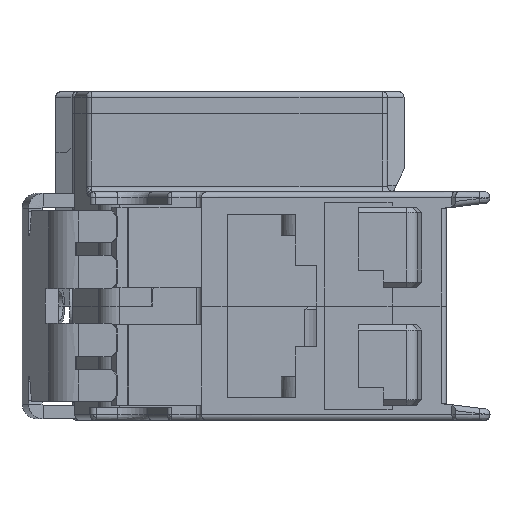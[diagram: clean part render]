
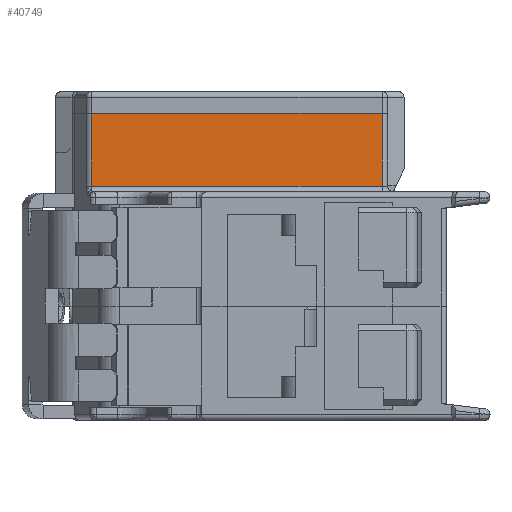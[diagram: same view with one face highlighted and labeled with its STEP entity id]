
A CAD part, front view. The second image highlights one B-rep face of the part: STEP entity #40749.
In plain terms, the highlighted planar face has unit normal (0, -1, 0).
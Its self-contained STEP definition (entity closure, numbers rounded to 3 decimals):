
#861 = EDGE_CURVE ( 'NONE', #5684, #5587, #8531, .T. ) ;
#894 = EDGE_CURVE ( 'NONE', #5582, #5587, #9184, .T. ) ;
#896 = EDGE_CURVE ( 'NONE', #5688, #5582, #9186, .T. ) ;
#3464 = EDGE_LOOP ( 'NONE', ( #6732, #6733, #6734, #6735 ) ) ;
#3976 = CARTESIAN_POINT ( 'NONE',  ( -11.1, 8.5, -17.7 ) ) ;
#3991 = CARTESIAN_POINT ( 'NONE',  ( -11.1, 8.5, -11. ) ) ;
#5582 = VERTEX_POINT ( 'NONE', #29901 ) ;
#5587 = VERTEX_POINT ( 'NONE', #29891 ) ;
#5684 = VERTEX_POINT ( 'NONE', #3976 ) ;
#5688 = VERTEX_POINT ( 'NONE', #3991 ) ;
#6732 = ORIENTED_EDGE ( 'NONE', *, *, #861, .T. ) ;
#6733 = ORIENTED_EDGE ( 'NONE', *, *, #894, .F. ) ;
#6734 = ORIENTED_EDGE ( 'NONE', *, *, #896, .F. ) ;
#6735 = ORIENTED_EDGE ( 'NONE', *, *, #48603, .T. ) ;
#8531 = LINE ( 'NONE', #28917, #8534 ) ;
#8534 = VECTOR ( 'NONE', #29670, 1000. ) ;
#9184 = LINE ( 'NONE', #29561, #9194 ) ;
#9186 = LINE ( 'NONE', #29562, #9195 ) ;
#9194 = VECTOR ( 'NONE', #29563, 1000. ) ;
#9195 = VECTOR ( 'NONE', #29547, 1000. ) ;
#16384 = LINE ( 'NONE', #18402, #16400 ) ;
#16400 = VECTOR ( 'NONE', #18397, 1000. ) ;
#17411 = FACE_OUTER_BOUND ( 'NONE', #3464, .T. ) ;
#18397 = DIRECTION ( 'NONE',  ( 0., 0., -1. ) ) ;
#18402 = CARTESIAN_POINT ( 'NONE',  ( -11.1, 8.5, -10.5 ) ) ;
#22105 = AXIS2_PLACEMENT_3D ( 'NONE', #23326, #23347, #23348 ) ;
#23326 = CARTESIAN_POINT ( 'NONE',  ( -11.6, 8.5, -10.5 ) ) ;
#23330 = PLANE ( 'NONE',  #22105 ) ;
#23347 = DIRECTION ( 'NONE',  ( 0., -1., 0. ) ) ;
#23348 = DIRECTION ( 'NONE',  ( 0., 0., -1. ) ) ;
#28917 = CARTESIAN_POINT ( 'NONE',  ( 3.222, 8.5, -17.7 ) ) ;
#29547 = DIRECTION ( 'NONE',  ( 1., 0., 0. ) ) ;
#29561 = CARTESIAN_POINT ( 'NONE',  ( 15.617, 8.5, -10.5 ) ) ;
#29562 = CARTESIAN_POINT ( 'NONE',  ( -4.255, 8.5, -11. ) ) ;
#29563 = DIRECTION ( 'NONE',  ( 0., 0., -1. ) ) ;
#29670 = DIRECTION ( 'NONE',  ( 1., 0., 0. ) ) ;
#29891 = CARTESIAN_POINT ( 'NONE',  ( 15.617, 8.5, -17.7 ) ) ;
#29901 = CARTESIAN_POINT ( 'NONE',  ( 15.617, 8.5, -11. ) ) ;
#40749 = ADVANCED_FACE ( 'NONE', ( #17411 ), #23330, .T. ) ;
#48603 = EDGE_CURVE ( 'NONE', #5688, #5684, #16384, .T. ) ;
